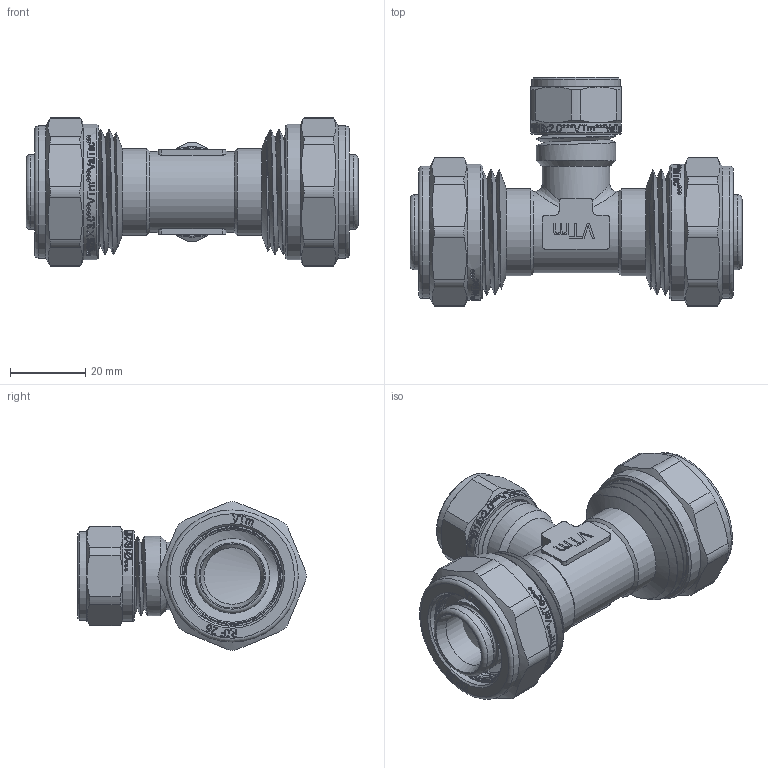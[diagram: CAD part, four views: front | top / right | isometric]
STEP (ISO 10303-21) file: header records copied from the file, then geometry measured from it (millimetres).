
FILE_DESCRIPTION(/* description */ (''),/* implementation_level */ '2;1');
FILE_NAME(/* name */ 'E:\Артём\00000\Работа удаленка\Обжимные фитинги\VTm.331.N.261626.stp',/* time_stamp */ '2020-06-30T13:04:05+03:00',/* author */ ('BeN_GaN'),/* organization */ (''),/* preprocessor_version */ 'ST-DEVELOPER v18',/* originating_system */ 'Autodesk Inventor 2020',/* authorisation */ '');
FILE_SCHEMA (('AUTOMOTIVE_DESIGN { 1 0 10303 214 3 1 1 }'));
Length unit declared in the file: millimetre
Products named in the file (1): VTm.331.N.261626
Bounding box: 88 x 60.69 x 39.39 mm (x, y, z)
Volume: 45522.9 mm3; surface area: 34987 mm2
Topology: 3 solids, 3 shells, 2039 faces, 5775 edges, 3900 vertices
Faces by surface type: bspline 1110, plane 562, cylinder 241, torus 73, cone 53
Full cylindrical faces by diameter (mm): 8 x1, 9.4 x2, 11.75 x4, 15 x1, 16 x4, 16.2 x1, 16.6 x5, 17 x1, 17.4 x7, 18 x1, 18.6 x2, 19.8 x10, 21 x1, 21.5 x1, 23 x2, 23.5 x1, 24 x1, 24.516 x8, 25.435 x10, 26.2 x2, 26.7 x2, 28.5 x2, 28.7 x8, 30.5 x4, 33.3 x2, 35 x2, 36 x2
Entity records: 88739 total; most frequent: CARTESIAN_POINT 42902, ORIENTED_EDGE 11556, DIRECTION 6072, EDGE_CURVE 5778, VERTEX_POINT 3903, LINE 2438, VECTOR 2438, B_SPLINE_CURVE_WITH_KNOTS 2397
